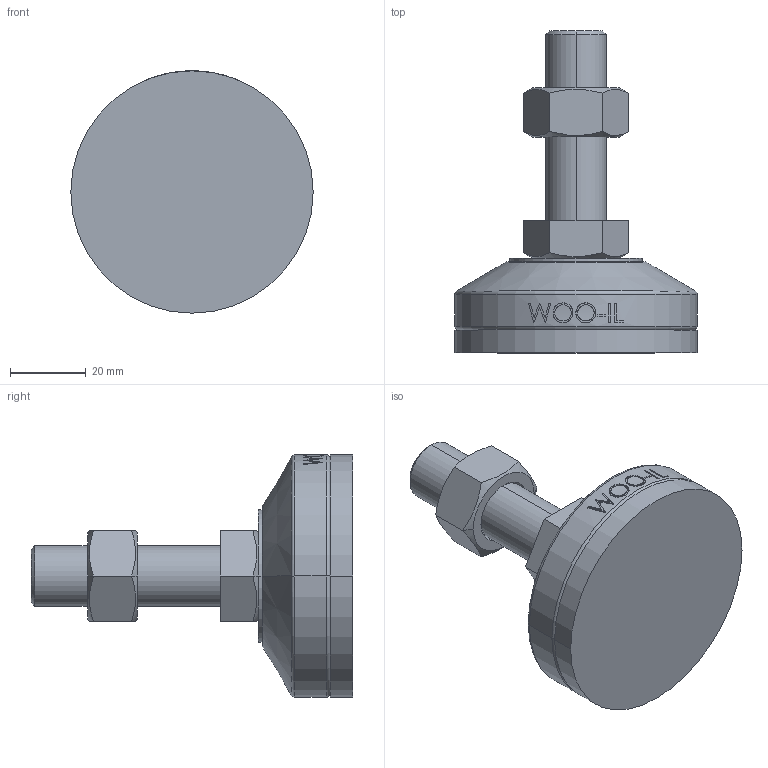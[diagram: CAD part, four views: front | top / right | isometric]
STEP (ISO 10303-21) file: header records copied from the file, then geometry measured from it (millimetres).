
FILE_DESCRIPTION (( 'STEP AP214' ), '1' );
FILE_NAME ('MFR64-M16-50.step', '2021-01-13T05:37:14', ( '' ), ( '' ), 'SwSTEP 2.0', 'SolidWorks 2019', '' );
FILE_SCHEMA (( 'AUTOMOTIVE_DESIGN' ));
Length unit declared in the file: millimetre
Products named in the file (2): MFR64-M16-50
Bounding box: 64 x 85 x 64 mm (x, y, z)
Volume: 87531.7 mm3; surface area: 22930.2 mm2
Topology: 4 solids, 4 shells, 103 faces, 235 edges, 150 vertices
Faces by surface type: plane 49, cylinder 18, bspline 16, cone 14, torus 6
Entity records: 4393 total; most frequent: CARTESIAN_POINT 2120, ORIENTED_EDGE 470, DIRECTION 417, EDGE_CURVE 235, AXIS2_PLACEMENT_3D 159, VERTEX_POINT 150, EDGE_LOOP 115, ADVANCED_FACE 103
